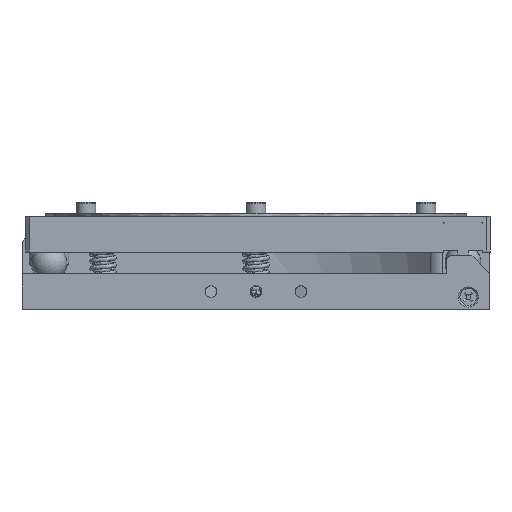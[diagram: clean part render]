
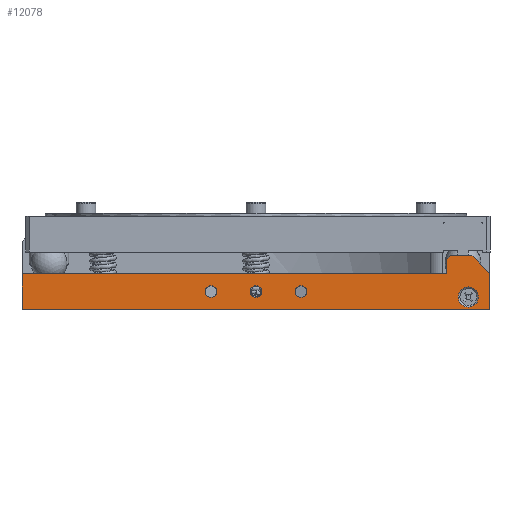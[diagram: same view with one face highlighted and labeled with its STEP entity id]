
A CAD part, front view. The second image highlights one B-rep face of the part: STEP entity #12078.
In plain terms, the highlighted planar face has unit normal (0, -1, 0).
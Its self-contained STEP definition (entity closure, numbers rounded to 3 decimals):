
#456=FACE_BOUND('',#2054,.T.);
#457=FACE_BOUND('',#2055,.T.);
#458=FACE_BOUND('',#2056,.T.);
#459=FACE_BOUND('',#2057,.T.);
#762=PLANE('',#13298);
#1345=FACE_OUTER_BOUND('',#2053,.T.);
#2053=EDGE_LOOP('',(#10208,#10209,#10210,#10211,#10212,#10213,#10214,#10215));
#2054=EDGE_LOOP('',(#10216));
#2055=EDGE_LOOP('',(#10217));
#2056=EDGE_LOOP('',(#10218));
#2057=EDGE_LOOP('',(#10219));
#2786=LINE('',#24993,#3708);
#2790=LINE('',#24999,#3712);
#2792=LINE('',#25012,#3714);
#2794=LINE('',#25016,#3716);
#2895=LINE('',#25547,#3817);
#2941=LINE('',#26110,#3863);
#2942=LINE('',#26113,#3864);
#2943=LINE('',#26114,#3865);
#3708=VECTOR('',#15703,10.);
#3712=VECTOR('',#15709,10.);
#3714=VECTOR('',#15723,10.);
#3716=VECTOR('',#15727,10.);
#3817=VECTOR('',#16222,10.);
#3863=VECTOR('',#16386,10.);
#3864=VECTOR('',#16389,10.);
#3865=VECTOR('',#16390,10.);
#4451=CIRCLE('',#13029,2.8);
#4594=CIRCLE('',#13279,1.621);
#4595=CIRCLE('',#13281,1.621);
#4599=CIRCLE('',#13288,1.621);
#5419=VERTEX_POINT('',#24981);
#5423=VERTEX_POINT('',#24991);
#5424=VERTEX_POINT('',#24992);
#5425=VERTEX_POINT('',#24997);
#5430=VERTEX_POINT('',#25011);
#5431=VERTEX_POINT('',#25015);
#5587=VERTEX_POINT('',#25544);
#5588=VERTEX_POINT('',#25546);
#5654=VERTEX_POINT('',#25945);
#5657=VERTEX_POINT('',#25987);
#5663=VERTEX_POINT('',#26082);
#5670=VERTEX_POINT('',#26112);
#6898=EDGE_CURVE('',#5419,#5419,#4451,.T.);
#6903=EDGE_CURVE('',#5423,#5424,#2786,.T.);
#6907=EDGE_CURVE('',#5425,#5423,#2790,.T.);
#6913=EDGE_CURVE('',#5424,#5430,#2792,.T.);
#6915=EDGE_CURVE('',#5430,#5431,#2794,.T.);
#7138=EDGE_CURVE('',#5587,#5588,#2895,.T.);
#7215=EDGE_CURVE('',#5654,#5654,#4594,.T.);
#7219=EDGE_CURVE('',#5657,#5657,#4595,.T.);
#7228=EDGE_CURVE('',#5663,#5663,#4599,.T.);
#7243=EDGE_CURVE('',#5431,#5587,#2941,.T.);
#7244=EDGE_CURVE('',#5425,#5670,#2942,.T.);
#7245=EDGE_CURVE('',#5670,#5588,#2943,.T.);
#10208=ORIENTED_EDGE('',*,*,#7244,.T.);
#10209=ORIENTED_EDGE('',*,*,#7245,.T.);
#10210=ORIENTED_EDGE('',*,*,#7138,.F.);
#10211=ORIENTED_EDGE('',*,*,#7243,.F.);
#10212=ORIENTED_EDGE('',*,*,#6915,.F.);
#10213=ORIENTED_EDGE('',*,*,#6913,.F.);
#10214=ORIENTED_EDGE('',*,*,#6903,.F.);
#10215=ORIENTED_EDGE('',*,*,#6907,.F.);
#10216=ORIENTED_EDGE('',*,*,#6898,.T.);
#10217=ORIENTED_EDGE('',*,*,#7215,.T.);
#10218=ORIENTED_EDGE('',*,*,#7219,.T.);
#10219=ORIENTED_EDGE('',*,*,#7228,.T.);
#12078=ADVANCED_FACE('',(#1345,#456,#457,#458,#459),#762,.T.);
#13029=AXIS2_PLACEMENT_3D('',#24982,#15692,#15693);
#13279=AXIS2_PLACEMENT_3D('',#25946,#16335,#16336);
#13281=AXIS2_PLACEMENT_3D('',#25988,#16340,#16341);
#13288=AXIS2_PLACEMENT_3D('',#26083,#16355,#16356);
#13298=AXIS2_PLACEMENT_3D('',#26111,#16387,#16388);
#15692=DIRECTION('center_axis',(0.,1.,0.));
#15693=DIRECTION('ref_axis',(1.,0.,0.));
#15703=DIRECTION('',(0.707,0.,0.707));
#15709=DIRECTION('',(0.,0.,1.));
#15723=DIRECTION('',(1.,0.,0.));
#15727=DIRECTION('',(0.707,0.,-0.707));
#16222=DIRECTION('',(-1.,0.,0.));
#16335=DIRECTION('center_axis',(0.,1.,0.));
#16336=DIRECTION('ref_axis',(1.,0.,0.));
#16340=DIRECTION('center_axis',(0.,1.,0.));
#16341=DIRECTION('ref_axis',(1.,0.,0.));
#16355=DIRECTION('center_axis',(0.,1.,0.));
#16356=DIRECTION('ref_axis',(1.,0.,0.));
#16386=DIRECTION('',(0.,0.,-1.));
#16387=DIRECTION('center_axis',(0.,-1.,0.));
#16388=DIRECTION('ref_axis',(0.,0.,
-1.));
#16389=DIRECTION('',(-1.,0.,0.));
#16390=DIRECTION('',(0.,0.,-1.));
#24981=CARTESIAN_POINT('',(11.86,-11.937,-42.891));
#24982=CARTESIAN_POINT('Origin',(14.66,-11.937,-42.891));
#24991=CARTESIAN_POINT('',(8.66,-11.937,-32.391));
#24992=CARTESIAN_POINT('',(9.66,-11.937,-31.391));
#24993=CARTESIAN_POINT('',(8.541,-11.937,-32.51));
#24997=CARTESIAN_POINT('',(8.66,-11.937,-36.391));
#24999=CARTESIAN_POINT('',(8.66,-11.937,-46.391));
#25011=CARTESIAN_POINT('',(15.66,-11.937,-31.391));
#25012=CARTESIAN_POINT('',(8.66,-11.937,-31.391));
#25015=CARTESIAN_POINT('',(20.66,-11.937,-36.391));
#25016=CARTESIAN_POINT('',(15.66,-11.937,-31.391));
#25544=CARTESIAN_POINT('',(20.66,-11.937,-46.391));
#25546=CARTESIAN_POINT('',(-109.34,-11.937,-46.391));
#25547=CARTESIAN_POINT('',(20.66,-11.937,-46.391));
#25945=CARTESIAN_POINT('',(-58.461,-11.937,-41.391));
#25946=CARTESIAN_POINT('Origin',(-56.84,-11.937,-41.391));
#25987=CARTESIAN_POINT('',(-33.461,-11.937,-41.391));
#25988=CARTESIAN_POINT('Origin',(-31.84,-11.937,-41.391));
#26082=CARTESIAN_POINT('',(-45.961,-11.937,-41.391));
#26083=CARTESIAN_POINT('Origin',(-44.34,-11.937,-41.391));
#26110=CARTESIAN_POINT('',(20.66,-11.937,-36.391));
#26111=CARTESIAN_POINT('Origin',(-43.992,-11.937,-41.421));
#26112=CARTESIAN_POINT('',(-109.34,-11.937,-36.391));
#26113=CARTESIAN_POINT('',(9.16,-11.937,-36.391));
#26114=CARTESIAN_POINT('',(-109.34,-11.937,-36.391));
